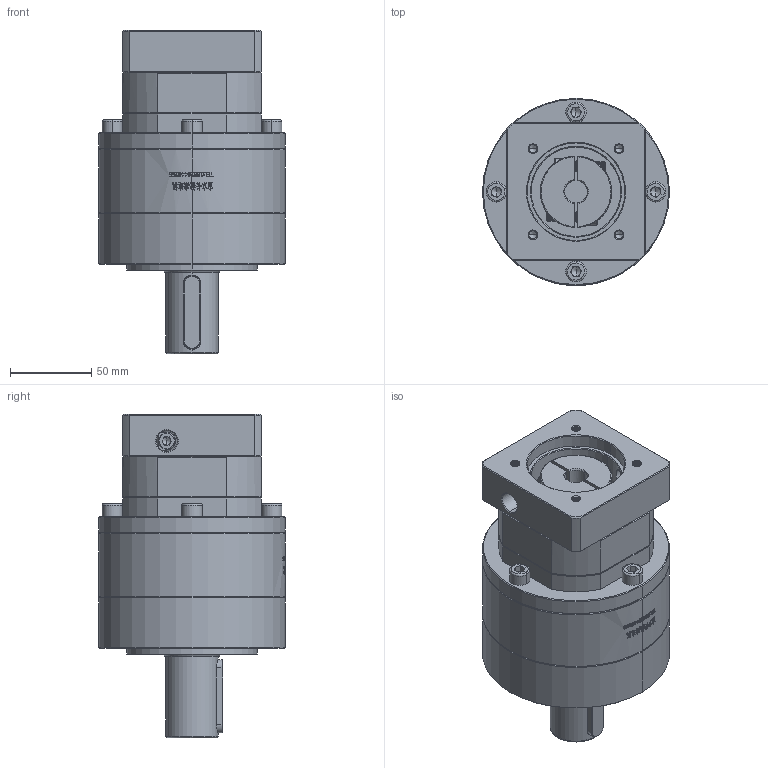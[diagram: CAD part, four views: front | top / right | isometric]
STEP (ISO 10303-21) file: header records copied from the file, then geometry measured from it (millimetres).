
FILE_DESCRIPTION (( 'STEP AP214' ), '1' );
FILE_NAME ('ZE120A-D32-L2-14-60-75-M6.step', '2023-03-13T06:51:01', ( '' ), ( '' ), 'SwSTEP 2.0', 'SolidWorks 2016', '' );
FILE_SCHEMA (( 'AUTOMOTIVE_DESIGN' ));
Length unit declared in the file: millimetre
Products named in the file (1): ZE120A-D32-L2-14-60-75-M6
Bounding box: 115 x 115 x 199 mm (x, y, z)
Volume: 1243708.5 mm3; surface area: 122750.2 mm2
Topology: 5 solids, 6 shells, 2029 faces, 5337 edges, 3399 vertices
Faces by surface type: plane 862, cylinder 504, bspline 333, cone 315, torus 15
Entity records: 117030 total; most frequent: CARTESIAN_POINT 49294, ORIENTED_EDGE 10598, DIRECTION 7940, EDGE_CURVE 5299, VERTEX_POINT 3399, VECTOR 2802, LINE 2802, AXIS2_PLACEMENT_3D 2569
